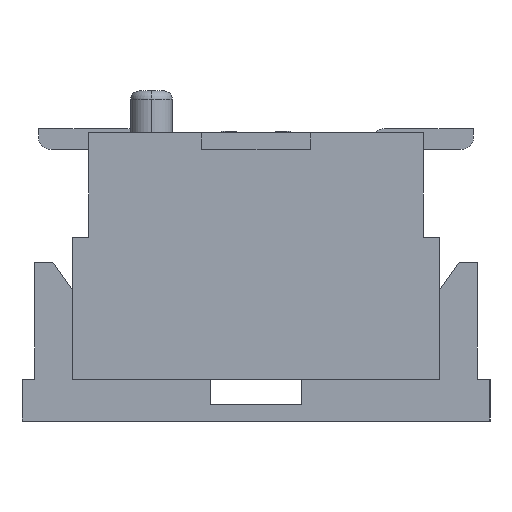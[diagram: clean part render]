
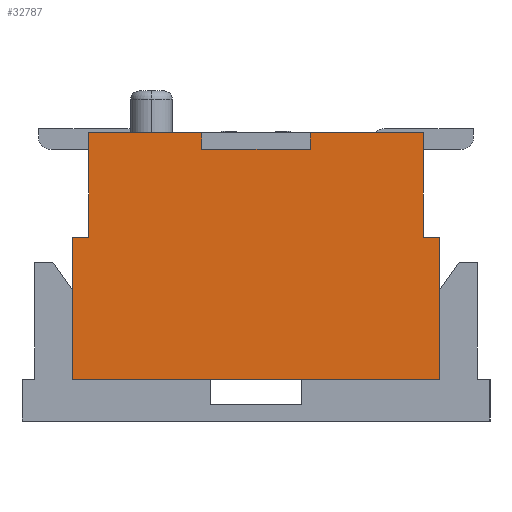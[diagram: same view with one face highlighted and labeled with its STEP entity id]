
A CAD part, left-side view. The second image highlights one B-rep face of the part: STEP entity #32787.
In plain terms, the highlighted planar face has unit normal (-1, 0, 0).
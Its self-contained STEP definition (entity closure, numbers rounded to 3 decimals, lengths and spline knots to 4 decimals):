
#146=CARTESIAN_POINT('Vertex',(-11.85,2.,2.95)) ;
#151=CARTESIAN_POINT('Line Origine',(-11.85,1.325,2.95)) ;
#155=CARTESIAN_POINT('Vertex',(-11.85,0.65,2.95)) ;
#176=CARTESIAN_POINT('Vertex',(-11.85,-0.65,2.95)) ;
#179=CARTESIAN_POINT('Line Origine',(-11.85,-1.325,2.95)) ;
#183=CARTESIAN_POINT('Vertex',(-11.85,-2.,2.95)) ;
#346=CARTESIAN_POINT('Line Origine',(-11.85,-2.,2.325)) ;
#350=CARTESIAN_POINT('Vertex',(-11.85,-2.,1.7)) ;
#6325=CARTESIAN_POINT('Vertex',(-11.85,2.,1.7)) ;
#6328=CARTESIAN_POINT('Line Origine',(-11.85,2.,2.325)) ;
#7172=CARTESIAN_POINT('Vertex',(-11.85,-2.2,0.)) ;
#7177=CARTESIAN_POINT('Line Origine',(-11.85,0.,0.)) ;
#7181=CARTESIAN_POINT('Vertex',(-11.85,2.2,0.)) ;
#32475=CARTESIAN_POINT('Line Origine',(-11.85,0.65,2.85)) ;
#32479=CARTESIAN_POINT('Vertex',(-11.85,0.65,2.75)) ;
#32523=CARTESIAN_POINT('Line Origine',(-11.85,-0.65,2.85)) ;
#32527=CARTESIAN_POINT('Vertex',(-11.85,-0.65,2.75)) ;
#32614=CARTESIAN_POINT('Vertex',(-11.85,-2.2,1.7)) ;
#32617=CARTESIAN_POINT('Line Origine',(-11.85,-2.2,0.85)) ;
#32634=CARTESIAN_POINT('Line Origine',(-11.85,2.2,0.85)) ;
#32638=CARTESIAN_POINT('Vertex',(-11.85,2.2,1.7)) ;
#32658=CARTESIAN_POINT('Line Origine',(-11.85,2.1,1.7)) ;
#32670=CARTESIAN_POINT('Line Origine',(-11.85,0.,2.75)) ;
#32756=CARTESIAN_POINT('Line Origine',(-11.85,-2.1,1.7)) ;
#32768=CARTESIAN_POINT('Axis2P3D Location',(-11.85,0.,0.)) ;
#152=DIRECTION('Vector Direction',(0.,-1.,0.)) ;
#180=DIRECTION('Vector Direction',(0.,-1.,0.)) ;
#347=DIRECTION('Vector Direction',(0.,0.,1.)) ;
#6329=DIRECTION('Vector Direction',(0.,0.,1.)) ;
#7178=DIRECTION('Vector Direction',(0.,1.,0.)) ;
#32476=DIRECTION('Vector Direction',(0.,0.,-1.)) ;
#32524=DIRECTION('Vector Direction',(0.,0.,-1.)) ;
#32618=DIRECTION('Vector Direction',(0.,0.,1.)) ;
#32635=DIRECTION('Vector Direction',(0.,0.,1.)) ;
#32659=DIRECTION('Vector Direction',(0.,-1.,0.)) ;
#32671=DIRECTION('Vector Direction',(0.,1.,0.)) ;
#32757=DIRECTION('Vector Direction',(0.,1.,0.)) ;
#32769=DIRECTION('Axis2P3D Direction',(1.,0.,0.)) ;
#32770=DIRECTION('Axis2P3D XDirection',(0.,1.,0.)) ;
#32771=AXIS2_PLACEMENT_3D('Plane Axis2P3D',#32768,#32769,#32770) ;
#32774=ORIENTED_EDGE('',*,*,#32529,.T.) ;
#32775=ORIENTED_EDGE('',*,*,#32674,.F.) ;
#32776=ORIENTED_EDGE('',*,*,#32481,.F.) ;
#32777=ORIENTED_EDGE('',*,*,#157,.F.) ;
#32778=ORIENTED_EDGE('',*,*,#6332,.F.) ;
#32779=ORIENTED_EDGE('',*,*,#32662,.F.) ;
#32780=ORIENTED_EDGE('',*,*,#32640,.F.) ;
#32781=ORIENTED_EDGE('',*,*,#7183,.F.) ;
#32782=ORIENTED_EDGE('',*,*,#32621,.F.) ;
#32783=ORIENTED_EDGE('',*,*,#32760,.F.) ;
#32784=ORIENTED_EDGE('',*,*,#352,.F.) ;
#32785=ORIENTED_EDGE('',*,*,#185,.F.) ;
#153=VECTOR('Line Direction',#152,1.) ;
#181=VECTOR('Line Direction',#180,1.) ;
#348=VECTOR('Line Direction',#347,1.) ;
#6330=VECTOR('Line Direction',#6329,1.) ;
#7179=VECTOR('Line Direction',#7178,1.) ;
#32477=VECTOR('Line Direction',#32476,1.) ;
#32525=VECTOR('Line Direction',#32524,1.) ;
#32619=VECTOR('Line Direction',#32618,1.) ;
#32636=VECTOR('Line Direction',#32635,1.) ;
#32660=VECTOR('Line Direction',#32659,1.) ;
#32672=VECTOR('Line Direction',#32671,1.) ;
#32758=VECTOR('Line Direction',#32757,1.) ;
#32787=ADVANCED_FACE('\X2\96F64EF651E04F554F53\X0\',(#32786),#32772,.F.) ;
#157=EDGE_CURVE('',#147,#156,#154,.T.) ;
#185=EDGE_CURVE('',#177,#184,#182,.T.) ;
#352=EDGE_CURVE('',#184,#351,#349,.F.) ;
#6332=EDGE_CURVE('',#6326,#147,#6331,.T.) ;
#7183=EDGE_CURVE('',#7173,#7182,#7180,.T.) ;
#32481=EDGE_CURVE('',#156,#32480,#32478,.T.) ;
#32529=EDGE_CURVE('',#177,#32528,#32526,.T.) ;
#32621=EDGE_CURVE('',#32615,#7173,#32620,.F.) ;
#32640=EDGE_CURVE('',#7182,#32639,#32637,.T.) ;
#32662=EDGE_CURVE('',#32639,#6326,#32661,.T.) ;
#32674=EDGE_CURVE('',#32480,#32528,#32673,.F.) ;
#32760=EDGE_CURVE('',#351,#32615,#32759,.F.) ;
#32773=EDGE_LOOP('',(#32774,#32775,#32776,#32777,#32778,#32779,#32780,#32781,#32782,#32783,#32784,#32785)) ;
#32786=FACE_OUTER_BOUND('',#32773,.T.) ;
#154=LINE('Line',#151,#153) ;
#182=LINE('Line',#179,#181) ;
#349=LINE('Line',#346,#348) ;
#6331=LINE('Line',#6328,#6330) ;
#7180=LINE('Line',#7177,#7179) ;
#32478=LINE('Line',#32475,#32477) ;
#32526=LINE('Line',#32523,#32525) ;
#32620=LINE('Line',#32617,#32619) ;
#32637=LINE('Line',#32634,#32636) ;
#32661=LINE('Line',#32658,#32660) ;
#32673=LINE('Line',#32670,#32672) ;
#32759=LINE('Line',#32756,#32758) ;
#32772=PLANE('Plane',#32771) ;
#147=VERTEX_POINT('',#146) ;
#156=VERTEX_POINT('',#155) ;
#177=VERTEX_POINT('',#176) ;
#184=VERTEX_POINT('',#183) ;
#351=VERTEX_POINT('',#350) ;
#6326=VERTEX_POINT('',#6325) ;
#7173=VERTEX_POINT('',#7172) ;
#7182=VERTEX_POINT('',#7181) ;
#32480=VERTEX_POINT('',#32479) ;
#32528=VERTEX_POINT('',#32527) ;
#32615=VERTEX_POINT('',#32614) ;
#32639=VERTEX_POINT('',#32638) ;
